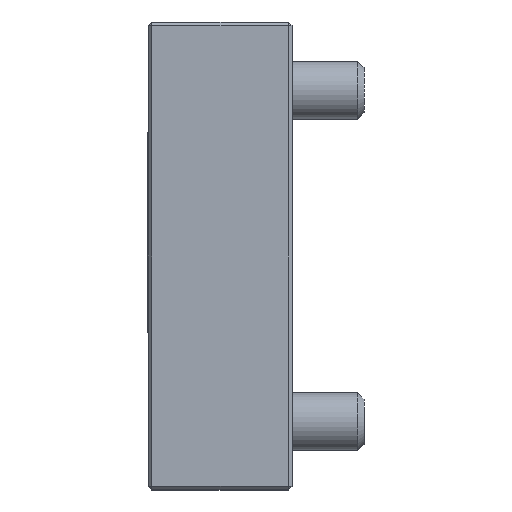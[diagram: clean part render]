
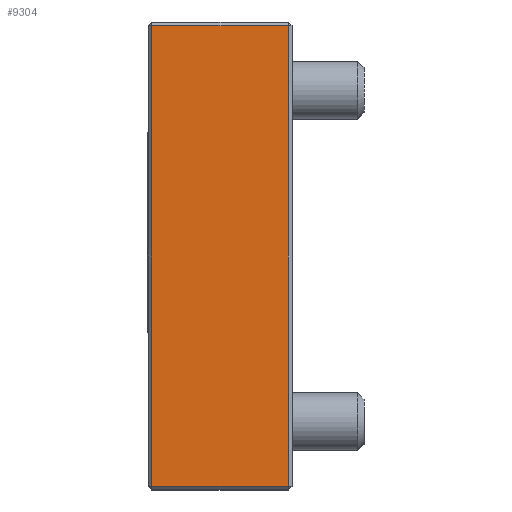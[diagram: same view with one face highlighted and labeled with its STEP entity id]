
A CAD part, left-side view. The second image highlights one B-rep face of the part: STEP entity #9304.
In plain terms, the highlighted planar face has unit normal (-1, 0, 0).
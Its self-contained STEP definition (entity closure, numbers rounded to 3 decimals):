
#729 = VECTOR ( 'NONE', #4103, 1000. ) ;
#743 = LINE ( 'NONE', #4474, #729 ) ;
#889 = CARTESIAN_POINT ( 'NONE',  ( -32.5, 0.5, 32.5 ) ) ;
#1092 = DIRECTION ( 'NONE',  ( 0., 0., 1. ) ) ;
#1237 = LINE ( 'NONE', #5287, #7095 ) ;
#1331 = VERTEX_POINT ( 'NONE', #6975 ) ;
#1746 = EDGE_CURVE ( 'NONE', #1331, #4492, #1237, .T. ) ;
#1808 = EDGE_CURVE ( 'NONE', #4492, #6195, #743, .T. ) ;
#1959 = EDGE_CURVE ( 'NONE', #6195, #10444, #7334, .T. ) ;
#2013 = EDGE_CURVE ( 'NONE', #10444, #1331, #8176, .T. ) ;
#2293 = ORIENTED_EDGE ( 'NONE', *, *, #1959, .T. ) ;
#2302 = ORIENTED_EDGE ( 'NONE', *, *, #2013, .T. ) ;
#2630 = FACE_OUTER_BOUND ( 'NONE', #6660, .T. ) ;
#4103 = DIRECTION ( 'NONE',  ( 0., -1., 0. ) ) ;
#4129 = DIRECTION ( 'NONE',  ( 0., 1., 0. ) ) ;
#4170 = ORIENTED_EDGE ( 'NONE', *, *, #1746, .T. ) ;
#4474 = CARTESIAN_POINT ( 'NONE',  ( -32.5, 20., -32. ) ) ;
#4492 = VERTEX_POINT ( 'NONE', #10441 ) ;
#4919 = CARTESIAN_POINT ( 'NONE',  ( -32.5, 20., 32. ) ) ;
#5287 = CARTESIAN_POINT ( 'NONE',  ( -32.5, 19.5, -32.5 ) ) ;
#6194 = ORIENTED_EDGE ( 'NONE', *, *, #1808, .T. ) ;
#6195 = VERTEX_POINT ( 'NONE', #6632 ) ;
#6632 = CARTESIAN_POINT ( 'NONE',  ( -32.5, 0.5, -32. ) ) ;
#6651 = VECTOR ( 'NONE', #4129, 1000. ) ;
#6660 = EDGE_LOOP ( 'NONE', ( #4170, #6194, #2293, #2302 ) ) ;
#6975 = CARTESIAN_POINT ( 'NONE',  ( -32.5, 19.5, 32. ) ) ;
#7050 = DIRECTION ( 'NONE',  ( 0., 0., -1. ) ) ;
#7095 = VECTOR ( 'NONE', #7050, 1000. ) ;
#7102 = DIRECTION ( 'NONE',  ( 0., 0., -1. ) ) ;
#7114 = DIRECTION ( 'NONE',  ( 1., 0., 0. ) ) ;
#7147 = CARTESIAN_POINT ( 'NONE',  ( -32.5, 20., 32.5 ) ) ;
#7334 = LINE ( 'NONE', #889, #8789 ) ;
#7345 = PLANE ( 'NONE',  #7541 ) ;
#7541 = AXIS2_PLACEMENT_3D ( 'NONE', #7147, #7114, #7102 ) ;
#8176 = LINE ( 'NONE', #4919, #6651 ) ;
#8198 = CARTESIAN_POINT ( 'NONE',  ( -32.5, 0.5, 32. ) ) ;
#8789 = VECTOR ( 'NONE', #1092, 1000. ) ;
#9304 = ADVANCED_FACE ( 'NONE', ( #2630 ), #7345, .F. ) ;
#10441 = CARTESIAN_POINT ( 'NONE',  ( -32.5, 19.5, -32. ) ) ;
#10444 = VERTEX_POINT ( 'NONE', #8198 ) ;
